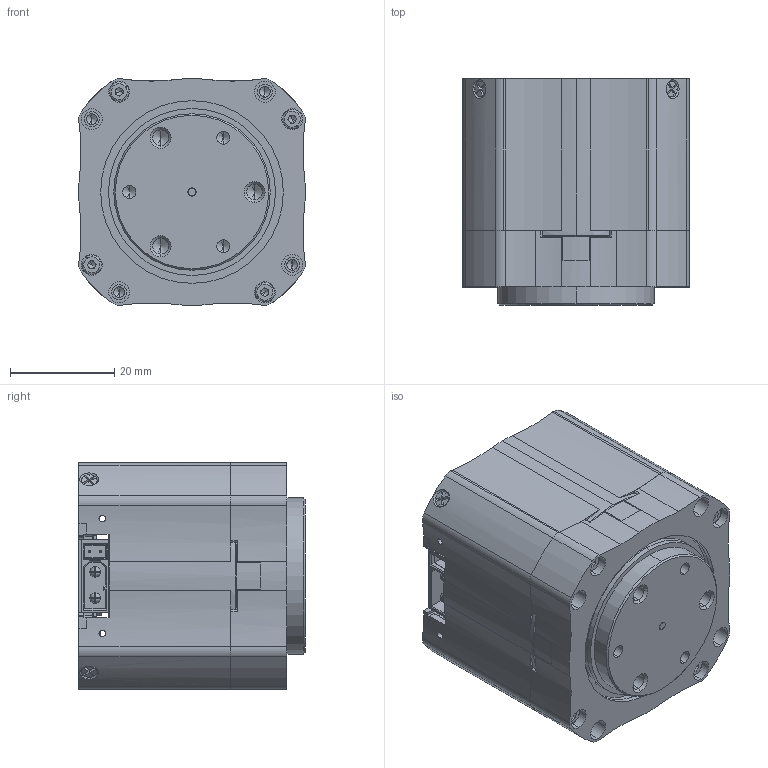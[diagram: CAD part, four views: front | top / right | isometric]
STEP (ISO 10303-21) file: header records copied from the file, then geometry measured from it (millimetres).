
FILE_DESCRIPTION (( 'STEP AP214' ), '1' );
FILE_NAME ('HTDW-4530-02-DNE.STEP', '2025-12-24T08:22:19', ( '' ), ( '' ), 'SwSTEP 2.0', 'SolidWorks 2024', '' );
FILE_SCHEMA (( 'AUTOMOTIVE_DESIGN' ));
Length unit declared in the file: millimetre
Products named in the file (11): 303742.0; 4438外壳03192.0; 4438输出编码器销2.0_35.5; m2-4-3十字沉头螺丝; 4438-电机盖-2.1; 4438-正装轴承座09102.0; 3D_双编-4438-V1.9_2025-03-042.0; HTDW-4530-02-DNE; M2.5-10-3.7杯头螺丝; 2内齿44382.0; 4438-输出盘-2.0
Assembly tree (16 placements, depth 2):
  HTDW-4530-02-DNE
    4438外壳03192.0
    2内齿44382.0
    3D_双编-4438-V1.9_2025-03-042.0
    4438-电机盖-2.1
    4438输出编码器销2.0_35.5
    4438-输出盘-2.0
    4438-正装轴承座09102.0
    303742.0
    M2.5-10-3.7杯头螺丝  x4
    m2-4-3十字沉头螺丝  x4
Bounding box: 43.5 x 43.4 x 43.5 mm (x, y, z)
Volume: 33398.7 mm3; surface area: 37591.8 mm2
Topology: 18 solids, 18 shells, 2676 faces, 7311 edges, 4740 vertices
Faces by surface type: cylinder 1250, plane 815, bspline 432, cone 139, torus 24, sphere 16
Entity records: 88818 total; most frequent: CARTESIAN_POINT 23335, ORIENTED_EDGE 13926, DIRECTION 12926, EDGE_CURVE 6963, AXIS2_PLACEMENT_3D 4757, VERTEX_POINT 4578, VECTOR 3412, LINE 3412
